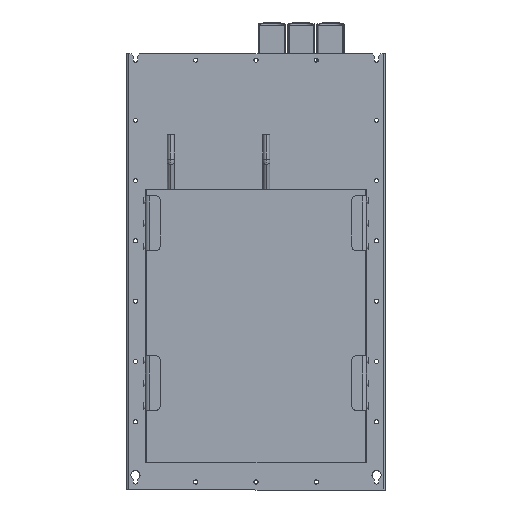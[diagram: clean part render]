
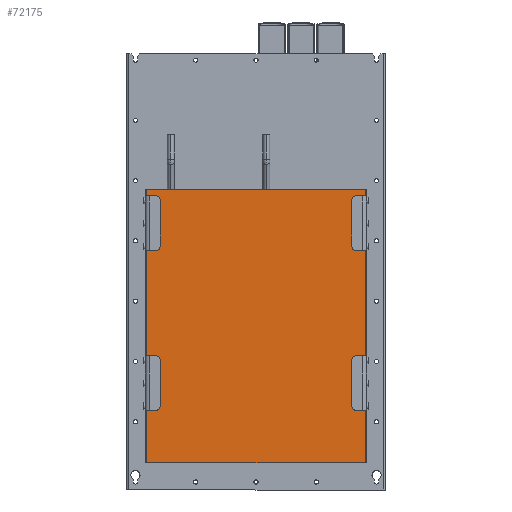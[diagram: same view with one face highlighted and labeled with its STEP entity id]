
A CAD part, front view. The second image highlights one B-rep face of the part: STEP entity #72175.
In plain terms, the highlighted planar face has unit normal (0, -1, 0).
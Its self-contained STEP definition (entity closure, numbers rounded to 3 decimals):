
#324 = CARTESIAN_POINT ( 'NONE',  ( 239., -28., 0. ) ) ;
#1342 = CARTESIAN_POINT ( 'NONE',  ( -239., -28., -598. ) ) ;
#1458 = CARTESIAN_POINT ( 'NONE',  ( -239., -28., -14. ) ) ;
#2037 = CARTESIAN_POINT ( 'NONE',  ( -239., -28., -364. ) ) ;
#2649 = ORIENTED_EDGE ( 'NONE', *, *, #31545, .F. ) ;
#3455 = EDGE_CURVE ( 'NONE', #75361, #42685, #16021, .T. ) ;
#4870 = DIRECTION ( 'NONE',  ( 0., 0., 1. ) ) ;
#5643 = CARTESIAN_POINT ( 'NONE',  ( 239., -28., 0. ) ) ;
#6440 = EDGE_CURVE ( 'NONE', #32381, #9172, #52356, .T. ) ;
#8068 = LINE ( 'NONE', #324, #77919 ) ;
#9172 = VERTEX_POINT ( 'NONE', #1458 ) ;
#9267 = LINE ( 'NONE', #36390, #32128 ) ;
#11563 = DIRECTION ( 'NONE',  ( -1., 0., 0. ) ) ;
#11759 = ORIENTED_EDGE ( 'NONE', *, *, #3455, .T. ) ;
#12086 = CARTESIAN_POINT ( 'NONE',  ( -239., -28., -598. ) ) ;
#12390 = CARTESIAN_POINT ( 'NONE',  ( 239., -28., -484. ) ) ;
#12927 = VECTOR ( 'NONE', #88989, 1000. ) ;
#15399 = DIRECTION ( 'NONE',  ( -1., 0., 0. ) ) ;
#16021 = LINE ( 'NONE', #44021, #75507 ) ;
#17510 = VECTOR ( 'NONE', #64625, 1000. ) ;
#18090 = CARTESIAN_POINT ( 'NONE',  ( 239., -28., -598. ) ) ;
#18364 = CARTESIAN_POINT ( 'NONE',  ( -239., -28., -598. ) ) ;
#19012 = DIRECTION ( 'NONE',  ( 0., 1., 0. ) ) ;
#19344 = EDGE_CURVE ( 'NONE', #43275, #32381, #41365, .T. ) ;
#19650 = ORIENTED_EDGE ( 'NONE', *, *, #86738, .T. ) ;
#20129 = AXIS2_PLACEMENT_3D ( 'NONE', #18090, #19012, #74106 ) ;
#20684 = ORIENTED_EDGE ( 'NONE', *, *, #63373, .F. ) ;
#20757 = VECTOR ( 'NONE', #62312, 1000. ) ;
#21094 = DIRECTION ( 'NONE',  ( 0., 0., 1. ) ) ;
#22368 = VERTEX_POINT ( 'NONE', #67529 ) ;
#22763 = ORIENTED_EDGE ( 'NONE', *, *, #63026, .T. ) ;
#23971 = CARTESIAN_POINT ( 'NONE',  ( 239., -28., -598. ) ) ;
#24542 = CARTESIAN_POINT ( 'NONE',  ( -239., -28., -598. ) ) ;
#26329 = ORIENTED_EDGE ( 'NONE', *, *, #35202, .T. ) ;
#29351 = LINE ( 'NONE', #89226, #63318 ) ;
#30495 = DIRECTION ( 'NONE',  ( 0., 0., 1. ) ) ;
#31213 = VECTOR ( 'NONE', #4870, 1000. ) ;
#31545 = EDGE_CURVE ( 'NONE', #74600, #42354, #74457, .T. ) ;
#32128 = VECTOR ( 'NONE', #37282, 1000. ) ;
#32270 = EDGE_CURVE ( 'NONE', #42354, #84840, #63722, .T. ) ;
#32381 = VERTEX_POINT ( 'NONE', #86685 ) ;
#33319 = CARTESIAN_POINT ( 'NONE',  ( -239., -28., -598. ) ) ;
#33884 = CARTESIAN_POINT ( 'NONE',  ( 239., -28., -598. ) ) ;
#35202 = EDGE_CURVE ( 'NONE', #40408, #75361, #29351, .T. ) ;
#36390 = CARTESIAN_POINT ( 'NONE',  ( -239., -28., -598. ) ) ;
#37282 = DIRECTION ( 'NONE',  ( 0., 0., 1. ) ) ;
#39062 = DIRECTION ( 'NONE',  ( 0., 0., 1. ) ) ;
#40408 = VERTEX_POINT ( 'NONE', #12390 ) ;
#41365 = LINE ( 'NONE', #24542, #55229 ) ;
#42354 = VERTEX_POINT ( 'NONE', #12086 ) ;
#42685 = VERTEX_POINT ( 'NONE', #48979 ) ;
#43021 = VERTEX_POINT ( 'NONE', #63877 ) ;
#43275 = VERTEX_POINT ( 'NONE', #2037 ) ;
#44021 = CARTESIAN_POINT ( 'NONE',  ( 239., -28., -598. ) ) ;
#44316 = EDGE_CURVE ( 'NONE', #43021, #71285, #88535, .T. ) ;
#48676 = ORIENTED_EDGE ( 'NONE', *, *, #67437, .F. ) ;
#48979 = CARTESIAN_POINT ( 'NONE',  ( 239., -28., -134. ) ) ;
#49605 = ORIENTED_EDGE ( 'NONE', *, *, #44316, .T. ) ;
#51135 = LINE ( 'NONE', #79159, #61336 ) ;
#52356 = LINE ( 'NONE', #18364, #62448 ) ;
#52599 = LINE ( 'NONE', #33319, #31213 ) ;
#53907 = PLANE ( 'NONE',  #20129 ) ;
#55229 = VECTOR ( 'NONE', #74555, 1000. ) ;
#56354 = EDGE_CURVE ( 'NONE', #42685, #43021, #81662, .T. ) ;
#61336 = VECTOR ( 'NONE', #30495, 1000. ) ;
#62312 = DIRECTION ( 'NONE',  ( 0., 0., 1. ) ) ;
#62448 = VECTOR ( 'NONE', #39062, 1000. ) ;
#63026 = EDGE_CURVE ( 'NONE', #74600, #40408, #51135, .T. ) ;
#63318 = VECTOR ( 'NONE', #21094, 1000. ) ;
#63373 = EDGE_CURVE ( 'NONE', #9172, #22368, #9267, .T. ) ;
#63722 = LINE ( 'NONE', #1342, #17510 ) ;
#63877 = CARTESIAN_POINT ( 'NONE',  ( 239., -28., -14. ) ) ;
#64011 = ORIENTED_EDGE ( 'NONE', *, *, #56354, .T. ) ;
#64625 = DIRECTION ( 'NONE',  ( 0., 0., 1. ) ) ;
#67437 = EDGE_CURVE ( 'NONE', #84840, #43275, #52599, .T. ) ;
#67529 = CARTESIAN_POINT ( 'NONE',  ( -239., -28., 0. ) ) ;
#68582 = FACE_OUTER_BOUND ( 'NONE', #78046, .T. ) ;
#70208 = CARTESIAN_POINT ( 'NONE',  ( 239., -28., -364. ) ) ;
#71285 = VERTEX_POINT ( 'NONE', #5643 ) ;
#71293 = CARTESIAN_POINT ( 'NONE',  ( -239., -28., -484. ) ) ;
#72022 = DIRECTION ( 'NONE',  ( 0., 0., 1. ) ) ;
#72175 = ADVANCED_FACE ( 'NONE', ( #68582 ), #53907, .F. ) ;
#74106 = DIRECTION ( 'NONE',  ( 1., 0., 0. ) ) ;
#74457 = LINE ( 'NONE', #23971, #82181 ) ;
#74555 = DIRECTION ( 'NONE',  ( 0., 0., 1. ) ) ;
#74600 = VERTEX_POINT ( 'NONE', #83334 ) ;
#75361 = VERTEX_POINT ( 'NONE', #70208 ) ;
#75507 = VECTOR ( 'NONE', #72022, 1000. ) ;
#77679 = ORIENTED_EDGE ( 'NONE', *, *, #19344, .F. ) ;
#77919 = VECTOR ( 'NONE', #15399, 1000. ) ;
#78046 = EDGE_LOOP ( 'NONE', ( #19650, #20684, #90713, #77679, #48676, #87403, #2649, #22763, #26329, #11759, #64011, #49605 ) ) ;
#79159 = CARTESIAN_POINT ( 'NONE',  ( 239., -28., -598. ) ) ;
#81648 = CARTESIAN_POINT ( 'NONE',  ( 239., -28., -598. ) ) ;
#81662 = LINE ( 'NONE', #33884, #20757 ) ;
#82181 = VECTOR ( 'NONE', #11563, 1000. ) ;
#83334 = CARTESIAN_POINT ( 'NONE',  ( 239., -28., -598. ) ) ;
#84840 = VERTEX_POINT ( 'NONE', #71293 ) ;
#86685 = CARTESIAN_POINT ( 'NONE',  ( -239., -28., -134. ) ) ;
#86738 = EDGE_CURVE ( 'NONE', #71285, #22368, #8068, .T. ) ;
#87403 = ORIENTED_EDGE ( 'NONE', *, *, #32270, .F. ) ;
#88535 = LINE ( 'NONE', #81648, #12927 ) ;
#88989 = DIRECTION ( 'NONE',  ( 0., 0., 1. ) ) ;
#89226 = CARTESIAN_POINT ( 'NONE',  ( 239., -28., -598. ) ) ;
#90713 = ORIENTED_EDGE ( 'NONE', *, *, #6440, .F. ) ;
